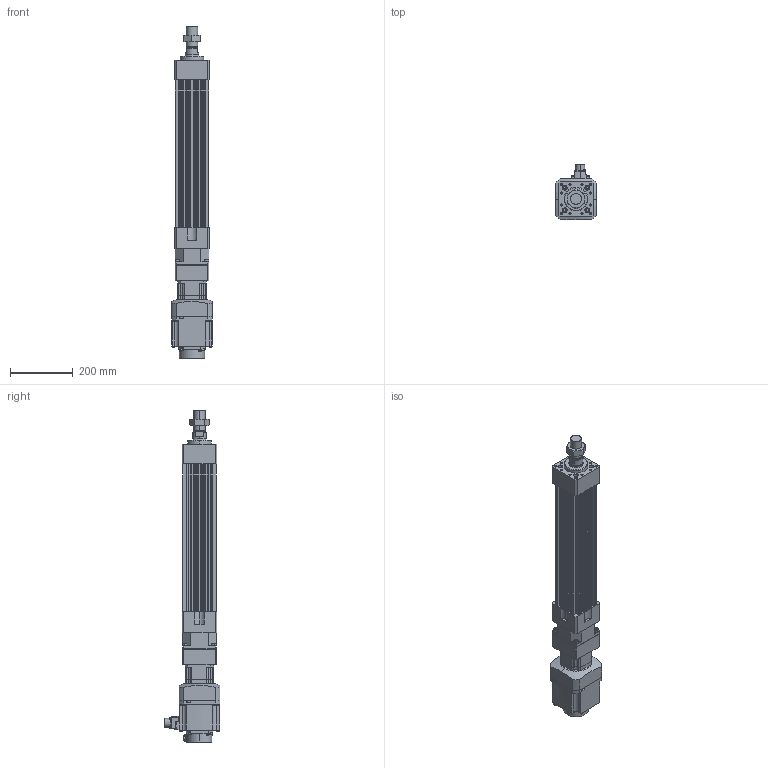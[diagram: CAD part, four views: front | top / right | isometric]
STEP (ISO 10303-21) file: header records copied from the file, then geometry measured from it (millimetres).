
FILE_DESCRIPTION (( 'STEP AP203' ), '1' );
FILE_NAME ('HES110NS(HS)-S300-W010G00-M.STEP', '2023-01-27T04:28:12', ( 'tms' ), ( '' ), 'SwSTEP 2.0', 'SolidWorks 2013', '' );
FILE_SCHEMA (( 'CONFIG_CONTROL_DESIGN' ));
Length unit declared in the file: millimetre
Products named in the file (8): HES110 ROD M ST300; HES110-S300-G090; P0401301004; HG-SR102; M36X1.5P; AB090-003[HG-SR102B]; HES110NS(HS)-S300-W010G00-M; AB0901
Assembly tree (7 placements, depth 3):
  HES110NS(HS)-S300-W010G00-M
    HES110-S300-G090
    HES110 ROD M ST300
    M36X1.5P
    AB090-003[HG-SR102B]
      AB0901
      P0401301004
    HG-SR102
Bounding box: 130 x 177.49 x 1058.5 mm (x, y, z)
Volume: 6794871 mm3; surface area: 905208.1 mm2
Topology: 4 solids, 15 shells, 1197 faces, 3018 edges, 1947 vertices
Faces by surface type: plane 550, cylinder 535, cone 100, bspline 8, torus 4
Entity records: 37761 total; most frequent: CARTESIAN_POINT 7330, DIRECTION 6511, ORIENTED_EDGE 5944, EDGE_CURVE 2982, AXIS2_PLACEMENT_3D 2399, VERTEX_POINT 1947, LINE 1713, VECTOR 1713
